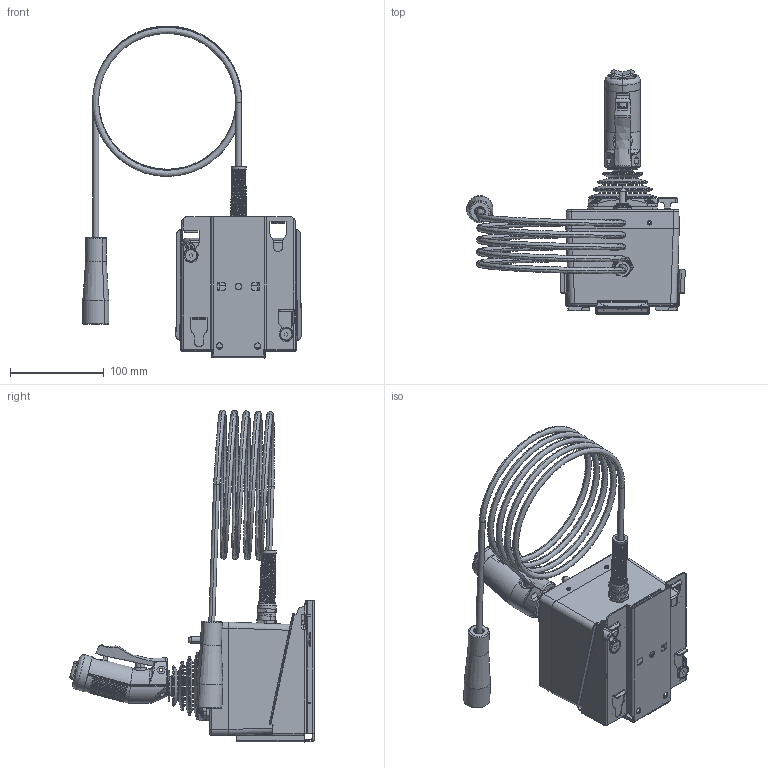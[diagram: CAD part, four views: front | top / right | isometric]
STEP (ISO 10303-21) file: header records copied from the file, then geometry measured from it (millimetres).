
FILE_DESCRIPTION (( 'STEP AP203' ), '1' );
FILE_NAME ('Y4E-JS-GT.step', '2014-05-13T20:12:23', ( 'user' ), ( '' ), 'SwSTEP 2.0', 'SolidWorks 2012', '' );
FILE_SCHEMA (( 'CONFIG_CONTROL_DESIGN' ));
Products named in the file (1): Y4E-JS-GT
Bounding box: 232.74 x 260.02 x 353.66 mm (x, y, z)
Surface area: 276604.1 mm2 (no closed solid volume)
Topology: 0 solids, 153 shells, 1338 faces, 6527 edges, 5219 vertices
Faces by surface type: plane 646, cylinder 347, bspline 186, cone 125, torus 32, sphere 2
Entity records: 109833 total; most frequent: CARTESIAN_POINT 62105, ORIENTED_EDGE 8900, DIRECTION 8584, EDGE_CURVE 6522, VERTEX_POINT 5220, LINE 3774, VECTOR 3774, AXIS2_PLACEMENT_3D 2405
